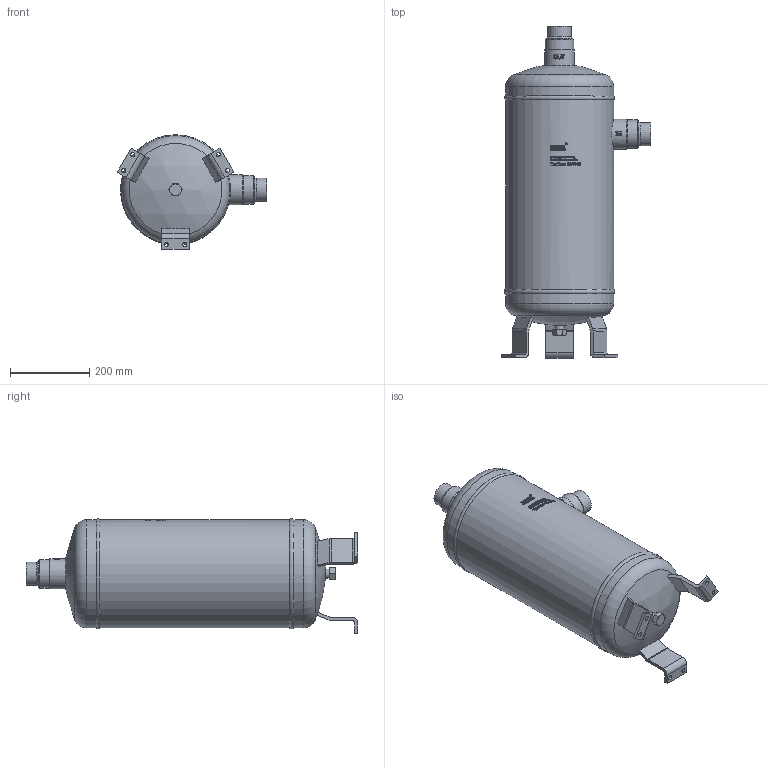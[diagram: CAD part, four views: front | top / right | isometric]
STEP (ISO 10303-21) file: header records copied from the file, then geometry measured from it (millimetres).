
FILE_DESCRIPTION(/* description */ (''),/* implementation_level */ '2;1');
FILE_NAME(/* name */ 'P:\FA\FA-54-32\FA-54-32.stp',/* time_stamp */ '2017-12-14T09:38:26+01:00',/* author */ ('neufeld'),/* organization */ (''),/* preprocessor_version */ 'ST-DEVELOPER v16.1',/* originating_system */ 'Autodesk Inventor 2016',/* authorisation */ '');
FILE_SCHEMA (('AUTOMOTIVE_DESIGN { 1 0 10303 214 3 1 1 }'));
Length unit declared in the file: millimetre
Products named in the file (1): FA-54-32_AG-Kunde
Bounding box: 377.9 x 838.69 x 289.15 mm (x, y, z)
Volume: 37329222 mm3; surface area: 745931.6 mm2
Topology: 1 solids, 1 shells, 1369 faces, 3715 edges, 2469 vertices
Faces by surface type: bspline 681, plane 520, cylinder 144, cone 18, torus 4, sphere 2
Full cylindrical faces by diameter (mm): 10.5 x6, 22.5 x1, 25.2 x1, 54.3 x2, 59 x2, 67 x2, 72.5 x2, 75.4 x2, 273.2 x3
Entity records: 56492 total; most frequent: CARTESIAN_POINT 26228, ORIENTED_EDGE 7352, DIRECTION 4194, EDGE_CURVE 3676, VERTEX_POINT 2462, LINE 1762, VECTOR 1762, EDGE_LOOP 1534
